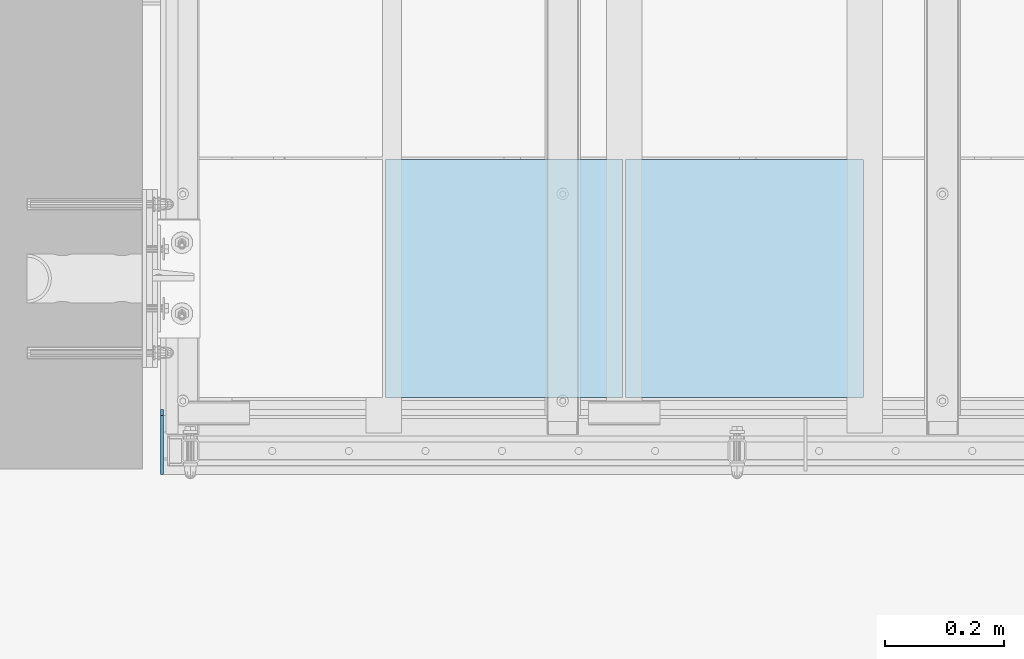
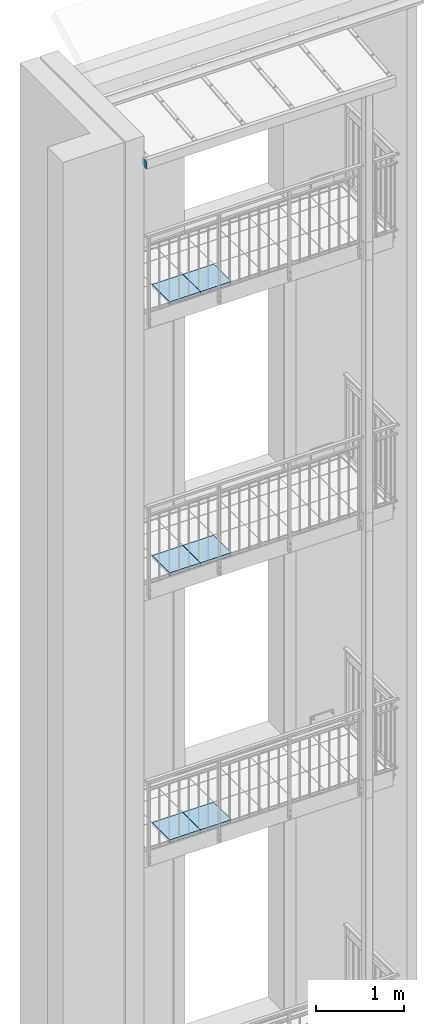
# One storey, part 57 of 162: 7 plates, 3 openings.
"""IFC2X3 building model written with IfcOpenShell, lengths in millimetres."""

from ifc_helpers import new_model, entity, si_unit, converted_unit, point, frame, frame_2d, origin, origin_with_axes, place, context, project, spatial, polyline, circle_curve, line_curve, trimmed, segment, composite_curve, outline, extrude, material, layer, layer_set, element, save


model = new_model("IFC2X3")

# Units and contexts
model_context = context("Model", 3, precision=1e-09, world=origin_with_axes())
ifc_project = project(units=[si_unit("LENGTHUNIT", "METRE", prefix="MILLI"), si_unit("AREAUNIT", "SQUARE_METRE"), si_unit("VOLUMEUNIT", "CUBIC_METRE"), converted_unit("PLANEANGLEUNIT", "DEGREE", entity("IfcPlaneAngleMeasure", 0.01745329), si_unit("PLANEANGLEUNIT", "RADIAN"), dimensions=[0, 0, 0, 0, 0, 0, 0])], contexts=[model_context])

# Site, building, storey
site_placement = place(None, origin_with_axes())
site = spatial("IfcSite", under=ifc_project, at=site_placement, Name="Hermannstra?e 1a, 60318 Frankfurt", CompositionType="ELEMENT")
building_placement = place(site_placement, origin_with_axes())
building = spatial("IfcBuilding", under=site, at=building_placement, Name="Struktur 1", CompositionType="ELEMENT")
storey_placement = place(building_placement, origin_with_axes())
storey = spatial("IfcBuildingStorey", under=building, at=storey_placement, Name="Default Storey", CompositionType="ELEMENT", Elevation=0.0)

# Plates
ifc_material_1 = material(Name="BWS")
ifc_layer_1 = layer(ifc_material_1, 40.0)
ifc_layer_set_1 = layer_set([ifc_layer_1], Name="BWS")
for number, where, z_axis, x_axis in (
    (1, (3335.80936482, 2005.609373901, 7774.0), (0.0, 0.0, -1.0), (1.0, 0.0, 0.0)),
    (2, (2931.30936482, 2005.609373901, 7774.0), (0.0, 0.0, -1.0), (1.0, 0.0, 0.0)),
    (3, (3335.80936482, 2005.609373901, 11473.999), (0.0, 0.0, -1.0), (1.0, 0.0, 0.0)),
    (4, (2931.30936482, 2005.609373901, 11473.999), (0.0, 0.0, -1.0), (1.0, 0.0, 0.0)),
    (5, (3335.80936482, 2005.609373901, 15230.999), (0.0, 0.0, -1.0), (1.0, 0.0, 0.0)),
    (6, (2931.30936482, 2005.609373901, 15230.999), (0.0, 0.0, -1.0), (1.0, 0.0, 0.0)),
):
    element("IfcPlate", number, at=place(None, frame(where, z_axis=z_axis, x_axis=x_axis)), inside=storey, material=ifc_layer_set_1, Name="-", ObjectType="-", context=model_context, shape_type="SweptSolid", body=[
        extrude(outline(polyline([(0.0, 0.0), (400.0, 0.0), (400.0, 400.0), (0.0, 400.0), (0.0, 0.0)])), origin_with_axes(), (0.0, 0.0, 1.0), 40.0),
    ])

# Plate, openings
ifc_material_2 = material(Name="S235JR")
ifc_layer_2 = layer(ifc_material_2, 5.0)
ifc_layer_set_2 = layer_set([ifc_layer_2], Name="S235JR")
plate_placement = place(None, frame((2553.30936482, 1575.111246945, 17386.397408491), z_axis=(-1.0, 0.0, 0.0), x_axis=(0.0, 0.104528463, -0.994521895)))
plate = element("IfcPlate", 7, at=plate_placement, inside=storey, material=ifc_layer_set_2, Name="-", ObjectType="-", context=model_context, shape_type="SweptSolid", body=[
    extrude(outline(polyline([(0.0, 0.0), (104.011545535, 0.0), (109.374036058, 5.955649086), (98.397340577, 110.391930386), (1.1e-08, 100.049953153), (0.0, 0.0)])), origin_with_axes(), (0.0, 0.0, -1.0), 5.0),
])
opening_1_placement = place(plate_placement, frame((104.011545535, 0.0, 0.01), z_axis=(0.0, 0.0, 1.0), x_axis=(0.669130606, 0.743144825, 0.0)))
element("IfcOpeningElement", 8, at=opening_1_placement, cuts=plate, ObjectType="Opening", context=model_context, shape_type="SweptSolid", body=[
    extrude(outline(composite_curve([segment(trimmed(line_curve((0.0, 0.0), (1.0, 0.0), 4.007058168), [point((0.0, 0.0))], [point((4.007058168, 0.0))], True, "CARTESIAN"), True, "CONTINUOUS"), segment(trimmed(circle_curve(frame_2d((4.007058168, 9.0), x_axis=(-1.0, 0.0)), 9.0), [point((4.007058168, 0.0))], [point((-2.681245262, 2.977824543))], False, "CARTESIAN"), True, "CONTINUOUS"), segment(trimmed(line_curve((-2.681245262, 2.977824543), (0.669130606, -0.743144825), 4.007058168), [point((-2.681245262, 2.977824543))], [point((0.0, 0.0))], True, "CARTESIAN"), True, "CONTINUOUS")], self_intersect=False)), origin(), (0.0, 0.0, -1.0), 5.02),
])
opening_2_placement = place(plate_placement, frame((109.374036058, 5.955649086, 0.01), z_axis=(0.0, 0.0, 1.0), x_axis=(-0.104528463, 0.994521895, 0.0)))
element("IfcOpeningElement", 9, at=opening_2_placement, cuts=plate, ObjectType="Opening", context=model_context, shape_type="SweptSolid", body=[
    extrude(outline(composite_curve([segment(trimmed(line_curve((0.0, 0.0), (1.0, 0.0), 4.007058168), [point((0.0, 0.0))], [point((4.007058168, 0.0))], True, "CARTESIAN"), True, "CONTINUOUS"), segment(trimmed(circle_curve(frame_2d((4.007058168, 9.0), x_axis=(-1.0, 0.0)), 9.0), [point((4.007058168, 0.0))], [point((-2.681245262, 2.977824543))], False, "CARTESIAN"), True, "CONTINUOUS"), segment(trimmed(line_curve((-2.681245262, 2.977824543), (0.669130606, -0.743144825), 4.007058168), [point((-2.681245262, 2.977824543))], [point((0.0, 0.0))], True, "CARTESIAN"), True, "CONTINUOUS")], self_intersect=False)), origin(), (0.0, 0.0, -1.0), 5.02),
])
opening_3_placement = place(plate_placement, frame((98.397340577, 110.391930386, 0.01), z_axis=(0.0, 0.0, 1.0), x_axis=(-0.994521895, -0.104528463, 0.0)))
element("IfcOpeningElement", 10, at=opening_3_placement, cuts=plate, ObjectType="Opening", context=model_context, shape_type="SweptSolid", body=[
    extrude(outline(composite_curve([segment(trimmed(line_curve((0.0, 0.0), (1.0, 0.0), 9.0), [point((0.0, 0.0))], [point((9.0, 0.0))], True, "CARTESIAN"), True, "CONTINUOUS"), segment(trimmed(circle_curve(frame_2d((9.0, 9.0), x_axis=(-1.0, 0.0)), 9.0), [point((9.0, 0.0))], [point((0.0, 9.0))], False, "CARTESIAN"), True, "CONTINUOUS"), segment(trimmed(line_curve((0.0, 9.0), (0.0, -1.0), 9.0), [point((0.0, 9.0))], [point((0.0, 0.0))], True, "CARTESIAN"), True, "CONTINUOUS")], self_intersect=False)), origin(), (0.0, 0.0, -1.0), 5.02),
])

save(model, "model.ifc")
